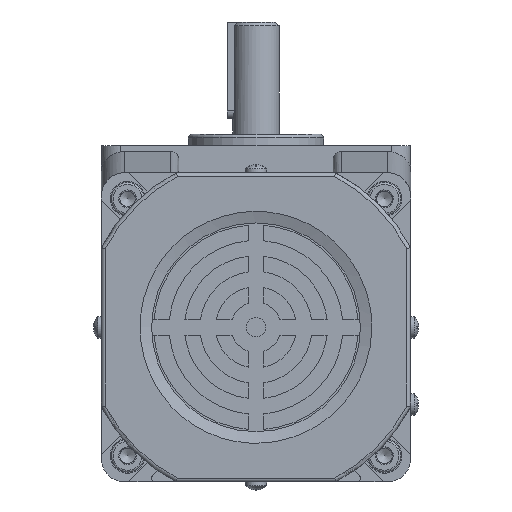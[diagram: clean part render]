
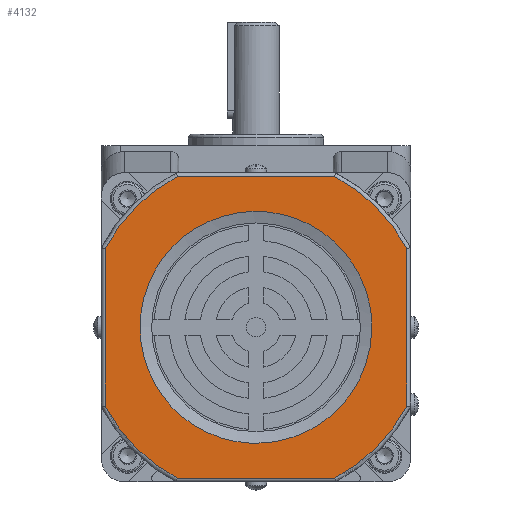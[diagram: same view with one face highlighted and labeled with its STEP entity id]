
A CAD part, front view. The second image highlights one B-rep face of the part: STEP entity #4132.
In plain terms, the highlighted planar face has unit normal (0, -1, 0).
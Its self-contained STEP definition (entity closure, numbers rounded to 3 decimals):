
#168=B_SPLINE_CURVE_WITH_KNOTS('',3,(#18960,#18961,#18962,#18963,#18964,
#18965,#18966,#18967,#18968,#18969,#18970,#18971,#18972,#18973,#18974,#18975,
#18976,#18977,#18978,#18979,#18980,#18981,#18982,#18983,#18984,#18985,#18986,
#18987,#18988,#18989,#18990,#18991,#18992,#18993,#18994,#18995,#18996,#18997,
#18998,#18999,#19000,#19001,#19002,#19003,#19004,#19005,#19006,#19007,#19008),
 .UNSPECIFIED.,.T.,.F.,(1,3,3,3,3,3,3,3,3,3,3,3,3,3,3,3,3,3,1),(-0.063,
0.,0.063,0.125,0.188,0.25,0.313,0.375,0.438,0.5,0.563,0.625,0.688,
0.75,0.813,0.875,0.938,1.,1.063),.UNSPECIFIED.);
#1264=LINE('',#18899,#2077);
#1267=LINE('',#18911,#2080);
#1268=LINE('',#18943,#2081);
#1271=LINE('',#18955,#2084);
#2077=VECTOR('',#15025,1.);
#2080=VECTOR('',#15030,1.);
#2081=VECTOR('',#15045,1.);
#2084=VECTOR('',#15050,1.);
#4132=ADVANCED_FACE('',(#5129,#5130),#4805,.T.);
#4805=PLANE('',#13303);
#5129=FACE_BOUND('',#5636,.T.);
#5130=FACE_BOUND('',#5637,.T.);
#5636=EDGE_LOOP('',(#7268));
#5637=EDGE_LOOP('',(#7269,#7270,#7271,#7272,#7273,#7274,#7275,#7276));
#7268=ORIENTED_EDGE('',*,*,#10909,.T.);
#7269=ORIENTED_EDGE('',*,*,#10894,.T.);
#7270=ORIENTED_EDGE('',*,*,#10888,.T.);
#7271=ORIENTED_EDGE('',*,*,#10890,.T.);
#7272=ORIENTED_EDGE('',*,*,#10896,.T.);
#7273=ORIENTED_EDGE('',*,*,#10902,.T.);
#7274=ORIENTED_EDGE('',*,*,#10908,.T.);
#7275=ORIENTED_EDGE('',*,*,#10906,.T.);
#7276=ORIENTED_EDGE('',*,*,#10900,.T.);
#9729=VERTEX_POINT('',#18878);
#9732=VERTEX_POINT('',#18888);
#9734=VERTEX_POINT('',#18898);
#9735=VERTEX_POINT('',#18908);
#9738=VERTEX_POINT('',#18920);
#9739=VERTEX_POINT('',#18930);
#9742=VERTEX_POINT('',#18942);
#9743=VERTEX_POINT('',#18952);
#9745=VERTEX_POINT('',#19009);
#10888=EDGE_CURVE('',#9729,#9732,#12244,.T.);
#10890=EDGE_CURVE('',#9732,#9734,#1264,.T.);
#10894=EDGE_CURVE('',#9735,#9729,#1267,.T.);
#10896=EDGE_CURVE('',#9734,#9738,#12245,.T.);
#10900=EDGE_CURVE('',#9739,#9735,#12248,.T.);
#10902=EDGE_CURVE('',#9738,#9742,#1268,.T.);
#10906=EDGE_CURVE('',#9743,#9739,#1271,.T.);
#10908=EDGE_CURVE('',#9742,#9743,#12250,.T.);
#10909=EDGE_CURVE('',#9745,#9745,#168,.T.);
#12244=CIRCLE('',#13191,44.);
#12245=CIRCLE('',#13195,44.);
#12248=CIRCLE('',#13199,44.);
#12250=CIRCLE('',#13204,44.);
#13191=AXIS2_PLACEMENT_3D('',#18889,#15021,#15022);
#13195=AXIS2_PLACEMENT_3D('',#18921,#15033,#15034);
#13199=AXIS2_PLACEMENT_3D('',#18933,#15041,#15042);
#13204=AXIS2_PLACEMENT_3D('',#18958,#15055,#15056);
#13303=AXIS2_PLACEMENT_3D('',#19344,#15339,#15340);
#15021=DIRECTION('',(0.,-1.,0.));
#15022=DIRECTION('',(1.,0.,0.));
#15025=DIRECTION('',(-1.,0.,0.));
#15030=DIRECTION('',(0.,0.,1.));
#15033=DIRECTION('',(0.,-1.,0.));
#15034=DIRECTION('',(1.,0.,0.));
#15041=DIRECTION('',(0.,-1.,0.));
#15042=DIRECTION('',(1.,0.,0.));
#15045=DIRECTION('',(0.,0.,-1.));
#15050=DIRECTION('',(1.,0.,0.));
#15055=DIRECTION('',(0.,-1.,0.));
#15056=DIRECTION('',(1.,0.,0.));
#15339=DIRECTION('',(0.,-1.,0.));
#15340=DIRECTION('',(1.,0.,0.));
#18878=CARTESIAN_POINT('',(39.,-180.,-26.628));
#18888=CARTESIAN_POINT('',(20.372,-180.,-8.));
#18889=CARTESIAN_POINT('',(0.,-180.,-47.));
#18898=CARTESIAN_POINT('',(-20.372,-180.,-8.));
#18899=CARTESIAN_POINT('',(-20.616,-180.,-8.));
#18908=CARTESIAN_POINT('',(39.,-180.,-67.372));
#18911=CARTESIAN_POINT('',(39.,-180.,-26.384));
#18920=CARTESIAN_POINT('',(-39.,-180.,-26.628));
#18921=CARTESIAN_POINT('',(0.,-180.,-47.));
#18930=CARTESIAN_POINT('',(20.372,-180.,-86.));
#18933=CARTESIAN_POINT('',(0.,-180.,-47.));
#18942=CARTESIAN_POINT('',(-39.,-180.,-67.372));
#18943=CARTESIAN_POINT('',(-39.,-180.,-67.616));
#18952=CARTESIAN_POINT('',(-20.372,-180.,-86.));
#18955=CARTESIAN_POINT('',(20.616,-180.,-86.));
#18958=CARTESIAN_POINT('',(0.,-180.,-47.));
#18960=CARTESIAN_POINT('',(30.,-180.,-47.));
#18961=CARTESIAN_POINT('',(30.,-180.,-50.939));
#18962=CARTESIAN_POINT('',(29.231,-180.,-54.764));
#18963=CARTESIAN_POINT('',(27.695,-180.,-58.472));
#18964=CARTESIAN_POINT('',(26.16,-180.,-62.18));
#18965=CARTESIAN_POINT('',(23.998,-180.,-65.428));
#18966=CARTESIAN_POINT('',(21.213,-180.,-68.213));
#18967=CARTESIAN_POINT('',(18.429,-180.,-70.998));
#18968=CARTESIAN_POINT('',(15.18,-180.,-73.159));
#18969=CARTESIAN_POINT('',(11.472,-180.,-74.696));
#18970=CARTESIAN_POINT('',(7.764,-180.,-76.232));
#18971=CARTESIAN_POINT('',(3.938,-180.,-77.));
#18972=CARTESIAN_POINT('',(0.,-180.,-77.));
#18973=CARTESIAN_POINT('',(-3.938,-180.,-77.));
#18974=CARTESIAN_POINT('',(-7.763,-180.,-76.231));
#18975=CARTESIAN_POINT('',(-11.472,-180.,-74.696));
#18976=CARTESIAN_POINT('',(-15.18,-180.,-73.16));
#18977=CARTESIAN_POINT('',(-18.428,-180.,-70.998));
#18978=CARTESIAN_POINT('',(-21.213,-180.,-68.213));
#18979=CARTESIAN_POINT('',(-23.998,-180.,-65.429));
#18980=CARTESIAN_POINT('',(-26.159,-180.,-62.18));
#18981=CARTESIAN_POINT('',(-27.696,-180.,-58.472));
#18982=CARTESIAN_POINT('',(-29.232,-180.,-54.764));
#18983=CARTESIAN_POINT('',(-30.,-180.,-50.938));
#18984=CARTESIAN_POINT('',(-30.,-180.,-47.));
#18985=CARTESIAN_POINT('',(-30.,-180.,-43.062));
#18986=CARTESIAN_POINT('',(-29.231,-180.,-39.237));
#18987=CARTESIAN_POINT('',(-27.696,-180.,-35.528));
#18988=CARTESIAN_POINT('',(-26.16,-180.,-31.82));
#18989=CARTESIAN_POINT('',(-23.998,-180.,-28.572));
#18990=CARTESIAN_POINT('',(-21.213,-180.,-25.787));
#18991=CARTESIAN_POINT('',(-18.429,-180.,-23.002));
#18992=CARTESIAN_POINT('',(-15.18,-180.,-20.841));
#18993=CARTESIAN_POINT('',(-11.472,-180.,-19.304));
#18994=CARTESIAN_POINT('',(-7.764,-180.,-17.768));
#18995=CARTESIAN_POINT('',(-3.938,-180.,-17.));
#18996=CARTESIAN_POINT('',(0.,-180.,-17.));
#18997=CARTESIAN_POINT('',(3.938,-180.,-17.));
#18998=CARTESIAN_POINT('',(7.763,-180.,-17.769));
#18999=CARTESIAN_POINT('',(11.472,-180.,-19.304));
#19000=CARTESIAN_POINT('',(15.18,-180.,-20.84));
#19001=CARTESIAN_POINT('',(18.428,-180.,-23.002));
#19002=CARTESIAN_POINT('',(21.213,-180.,-25.787));
#19003=CARTESIAN_POINT('',(23.998,-180.,-28.572));
#19004=CARTESIAN_POINT('',(26.159,-180.,-31.819));
#19005=CARTESIAN_POINT('',(27.696,-180.,-35.527));
#19006=CARTESIAN_POINT('',(29.232,-180.,-39.236));
#19007=CARTESIAN_POINT('',(30.,-180.,-43.06));
#19008=CARTESIAN_POINT('',(30.,-180.,-47.));
#19009=CARTESIAN_POINT('',(30.,-180.,-47.));
#19344=CARTESIAN_POINT('',(0.,-180.,-47.));
